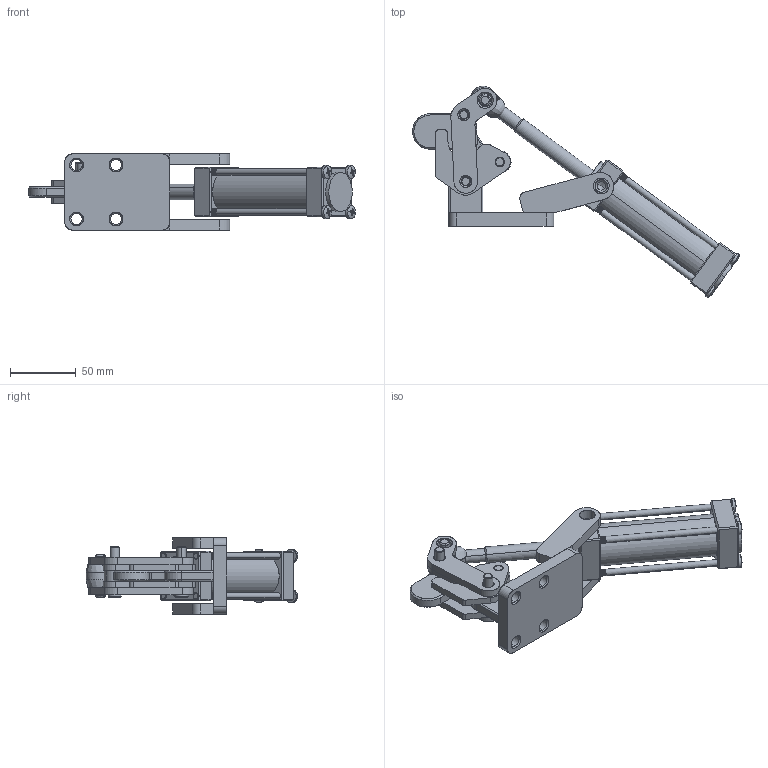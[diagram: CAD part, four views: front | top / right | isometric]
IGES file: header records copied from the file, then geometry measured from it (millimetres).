
Start section: SolidWorks IGES file using analytic representation for surfaces
Global section: file name: D:\GH Files\GH-SW-FILES\GH-A\702-CA\702CA\702C.IGS; native system: SolidWorks 2006 by SolidWorks Corporation; preprocessor: SolidWorks 2006 by SolidWorks Corporation; author: Administrator; date: 060526.085144; units: millimetre
Bounding box: 248.48 x 160.74 x 58 mm (x, y, z)
Surface area: 106124 mm2 (no closed solid volume)
Topology: 0 solids, 0 shells, 2093 faces, 16720 edges, 16706 vertices
Faces by surface type: revolution 1213, bspline 880
